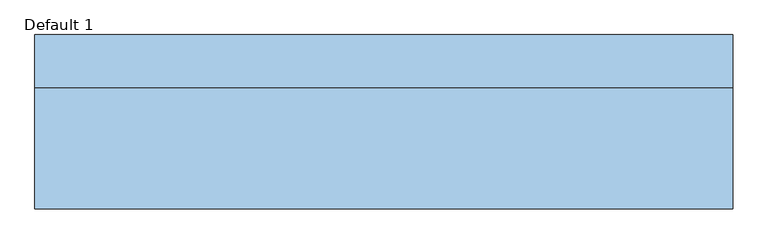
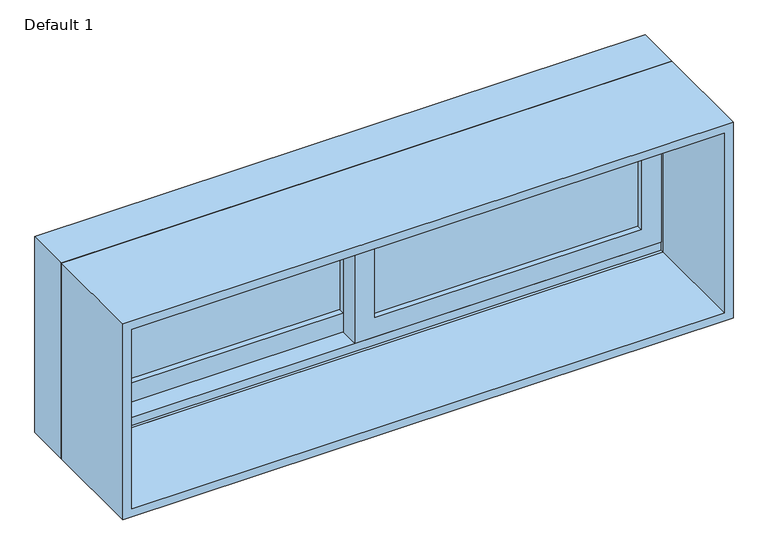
"""IFC4 building model written with IfcOpenShell, lengths in millimetres: window geometry, Planitar-Sliding-Double : Default 1."""

import ifcopenshell
import ifcopenshell.guid

model = None  # the IFC model being written
_history = None  # IfcOwnerHistory: only IFC2X3 demands one
_inside = {}  # id of a spatial element -> (the spatial element, [elements in it])
_under = {}  # id of a project, library or spatial element -> (it, [spatial elements below it])
_declared = {}  # id of a project -> (the project, [libraries it declares])
_typed = {}  # id of a type object -> (the type object, [elements of that type])
_made_of = {}  # id of a material, layer set ... -> (it, [elements and type objects made of it])


def new_model(schema):
    """Start an empty IFC model of exactly this schema.

    Asked for "IFC4X3", IfcOpenShell would pick the latest addendum, in which some entities
    have other attributes; the version numbers below select the first issue.
    IFC2X3 requires an IfcOwnerHistory on every rooted entity: one is made here for all.
    """
    global model, _history
    if schema == "IFC4X3":
        model = ifcopenshell.file(schema_version=(4, 3, 0, 0))
    else:
        model = ifcopenshell.file(schema=schema)
    _inside.clear()
    _under.clear()
    _declared.clear()
    _typed.clear()
    _made_of.clear()
    _history = None
    if model.schema == "IFC2X3":
        org = make("IfcOrganization", Name="unknown")
        user = make(
            "IfcPersonAndOrganization",
            ThePerson=make("IfcPerson", FamilyName="unknown"),
            TheOrganization=org,
        )
        app = make(
            "IfcApplication",
            ApplicationDeveloper=org,
            Version="unknown",
            ApplicationFullName="unknown",
            ApplicationIdentifier="unknown",
        )
        _history = make(
            "IfcOwnerHistory",
            OwningUser=user,
            OwningApplication=app,
            ChangeAction="ADDED",
            CreationDate=0,
        )
    return model


def make(cls, **values):
    """One entity of the class cls with the attributes given. An attribute that is None is left unset."""
    return model.create_entity(
        cls, **{name: value for name, value in values.items() if value is not None}
    )


def rooted(cls, **values):
    """An entity with a GlobalId (a new one), such as an element, a storey or a relation."""
    return make(cls, GlobalId=ifcopenshell.guid.new(), OwnerHistory=_history, **values)


def si_unit(unit_type, name, prefix=None):
    """IfcSIUnit, for example si_unit("LENGTHUNIT", "METRE", prefix="MILLI")."""
    return make("IfcSIUnit", UnitType=unit_type, Prefix=prefix, Name=name)


def assignment(units):
    """IfcUnitAssignment: the units of a project."""
    return None if units is None else make("IfcUnitAssignment", Units=units)


def point(xyz):
    """IfcCartesianPoint."""
    return None if xyz is None else make("IfcCartesianPoint", Coordinates=xyz)


def direction(xyz):
    """IfcDirection."""
    return None if xyz is None else make("IfcDirection", DirectionRatios=xyz)


def frame(location, z_axis=None, x_axis=None):
    """IfcAxis2Placement3D, a coordinate frame: its origin and axes. An axis left out is left unset."""
    return make(
        "IfcAxis2Placement3D",
        Location=point(location),
        Axis=direction(z_axis),
        RefDirection=direction(x_axis),
    )


def origin():
    """The frame at (0, 0, 0) with its axes left unset."""
    return frame((0.0, 0.0, 0.0))


def place(relative_to, where):
    """IfcLocalPlacement: puts the frame where relative to a parent placement (None: the world)."""
    return make(
        "IfcLocalPlacement", PlacementRelTo=relative_to, RelativePlacement=where
    )


def context(
    kind, dimensions, precision=None, world=None, true_north=None, identifier=None
):
    """IfcGeometricRepresentationContext, for example the 3D "Model" context."""
    return make(
        "IfcGeometricRepresentationContext",
        ContextIdentifier=identifier,
        ContextType=kind,
        CoordinateSpaceDimension=dimensions,
        Precision=precision,
        WorldCoordinateSystem=world,
        TrueNorth=true_north,
    )


def project(units=None, contexts=None):
    """IfcProject with its units and contexts."""
    return rooted(
        "IfcProject",
        Name="project",
        RepresentationContexts=contexts,
        UnitsInContext=assignment(units),
    )


def spatial(cls, under=None, at=None, **own):
    """A site, building, storey or space (cls), placed at a placement, below another one or the project."""
    s = rooted(cls, ObjectPlacement=at, **own)
    if under is not None:
        _under.setdefault(under.id(), (under, []))[1].append(s)
    return s


def polyline(points):
    """IfcPolyline through the points."""
    return make("IfcPolyline", Points=[point(p) for p in points])


def outline(outer, holes=None, kind="AREA"):
    """IfcArbitraryClosedProfileDef: a profile drawn as a closed curve; with holes, ...WithVoids."""
    if holes is None:
        return make("IfcArbitraryClosedProfileDef", ProfileType=kind, OuterCurve=outer)
    return make(
        "IfcArbitraryProfileDefWithVoids",
        ProfileType=kind,
        OuterCurve=outer,
        InnerCurves=holes,
    )


def extrude(swept, where, along, depth):
    """IfcExtrudedAreaSolid: the profile swept, set in the frame where, extruded along a direction by depth."""
    return make(
        "IfcExtrudedAreaSolid",
        SweptArea=swept,
        Position=where,
        ExtrudedDirection=direction(along),
        Depth=depth,
    )


def faces_of(points, faces, orient=None, outer=None):
    """IfcFace entities. A face is a list of loops; a loop is a list of indices into points, from 0.

    orient and outer hold one flag for each loop. By default every Orientation is true, the
    first loop of a face is its IfcFaceOuterBound and the others are IfcFaceBound.
    """
    made = []
    for i, loops in enumerate(faces):
        bounds = []
        for j, loop in enumerate(loops):
            is_outer = j == 0 if outer is None else outer[i][j]
            bounds.append(
                make(
                    "IfcFaceOuterBound" if is_outer else "IfcFaceBound",
                    Bound=make("IfcPolyLoop", Polygon=[points[k] for k in loop]),
                    Orientation=True if orient is None else orient[i][j],
                )
            )
        made.append(make("IfcFace", Bounds=bounds))
    return made


def faceted_brep(points, faces, orient=None, outer=None, voids=None):
    """IfcFacetedBrep: a solid bounded by flat faces; with voids (closed shells), ...WithVoids."""
    shared = [point(p) for p in points]
    hull = make("IfcClosedShell", CfsFaces=faces_of(shared, faces, orient, outer))
    if voids is None:
        return make("IfcFacetedBrep", Outer=hull)
    return make(
        "IfcFacetedBrepWithVoids",
        Outer=hull,
        Voids=[
            make(cls, CfsFaces=faces_of(shared, fs, o, b)) for cls, fs, o, b in voids
        ],
    )


def shape(context_of_items, identifier, shape_type, items):
    """IfcShapeRepresentation: the items that make up one representation, for example the "Body"."""
    return make(
        "IfcShapeRepresentation",
        ContextOfItems=context_of_items,
        RepresentationIdentifier=identifier,
        RepresentationType=shape_type,
        Items=items,
    )


def source(mapping_origin, context_of_items, identifier, shape_type, items):
    """IfcRepresentationMap: a shape defined once, which mapped items show again and again."""
    return make(
        "IfcRepresentationMap",
        MappingOrigin=mapping_origin,
        MappedRepresentation=shape(context_of_items, identifier, shape_type, items),
    )


def transform(
    local_origin,
    x_axis=None,
    y_axis=None,
    z_axis=None,
    scale=None,
    scale2=None,
    scale3=None,
    uniform=True,
):
    """IfcCartesianTransformationOperator3D, or its non-uniform kind. x_axis, y_axis, z_axis: its Axis1, 2, 3."""
    if uniform:
        return make(
            "IfcCartesianTransformationOperator3D",
            Axis1=direction(x_axis),
            Axis2=direction(y_axis),
            LocalOrigin=point(local_origin),
            Scale=scale,
            Axis3=direction(z_axis),
        )
    return make(
        "IfcCartesianTransformationOperator3DnonUniform",
        Axis1=direction(x_axis),
        Axis2=direction(y_axis),
        LocalOrigin=point(local_origin),
        Scale=scale,
        Axis3=direction(z_axis),
        Scale2=scale2,
        Scale3=scale3,
    )


def mapped(mapping_source, mapping_target):
    """IfcMappedItem: shows the shape of a source again, moved by a transform."""
    return make(
        "IfcMappedItem", MappingSource=mapping_source, MappingTarget=mapping_target
    )


def made_of(thing, what):
    """Note that an element or type object is made of a material, layer set ...; save() writes the relation."""
    if what is not None:
        _made_of.setdefault(what.id(), (what, []))[1].append(thing)
    return thing


def element(
    cls,
    number,
    at=None,
    inside=None,
    cuts=None,
    type_object=None,
    material=None,
    context=None,
    identifier="Body",
    shape_type=None,
    held_by="IfcProductDefinitionShape",
    body=None,
    shapes=None,
    **own,
):
    """One element of the class cls, such as IfcWall. Its Tag is "e" and its number.

    at: its placement. inside: the storey or other place that contains it. cuts: it is an
    opening in that element (IfcRelVoidsElement). A single representation is given by context,
    identifier, shape_type and body (its items); several are given by shapes. held_by: the class
    of the entity that holds the representations. save() writes the other relations.
    """
    e = rooted(cls, Tag="e%d" % number, ObjectPlacement=at, **own)
    if body is not None:
        shapes = [shape(context, identifier, shape_type, body)]
    if shapes is not None:
        e.Representation = make(held_by, Representations=shapes)
    if inside is not None:
        _inside.setdefault(inside.id(), (inside, []))[1].append(e)
    if cuts is not None:
        rooted(
            "IfcRelVoidsElement", RelatingBuildingElement=cuts, RelatedOpeningElement=e
        )
    if type_object is not None:
        _typed.setdefault(type_object.id(), (type_object, []))[1].append(e)
    return made_of(e, material)


def aggregate(whole, parts):
    """IfcRelAggregates: a whole, such as a stair, and the parts it consists of."""
    return rooted("IfcRelAggregates", RelatingObject=whole, RelatedObjects=parts)


def save(model, path):
    """Write the relations noted so far, then the file.

    IfcRelAggregates (storeys below a building ...), IfcRelContainedInSpatialStructure (elements
    in a storey), IfcRelDefinesByType, IfcRelAssociatesMaterial and IfcRelDeclares: one each for
    every whole, place, type object, material and project.
    """
    for whole, parts in _under.values():
        aggregate(whole, parts)
    for where, things in _inside.values():
        rooted(
            "IfcRelContainedInSpatialStructure",
            RelatedElements=things,
            RelatingStructure=where,
        )
    for kind, things in _typed.values():
        rooted("IfcRelDefinesByType", RelatedObjects=things, RelatingType=kind)
    for what, things in _made_of.values():
        rooted("IfcRelAssociatesMaterial", RelatedObjects=things, RelatingMaterial=what)
    for by, libraries in _declared.values():
        rooted("IfcRelDeclares", RelatingContext=by, RelatedDefinitions=libraries)
    model.write(path)


def default_1_0dcfb3a5(model_context):
    return source(origin(), model_context, "Body", "SolidModel", [
        extrude(outline(polyline([(933.45, -654.05), (933.45, 22.225), (1352.55, 22.225), (1352.55, -654.05), (933.45, -654.05)]), holes=[polyline([(1308.1, -22.225), (996.95, -22.225), (996.95, -609.6), (1308.1, -609.6), (1308.1, -22.225)])]), frame((0.0, 123.19, 0.0), z_axis=(0.0, 1.0, 0.0), x_axis=(0.0, 0.0, 1.0)), (0.0, 0.0, 1.0), 44.45),
        extrude(outline(polyline([(952.5, 654.05), (1352.55, 654.05), (1352.55, -22.225), (952.5, -22.225), (952.5, 654.05)]), holes=[polyline([(996.95, 22.225), (1308.1, 22.225), (1308.1, 609.6), (996.95, 609.6), (996.95, 22.225)])]), frame((0.0, 78.74, 0.0), z_axis=(0.0, 1.0, 0.0), x_axis=(0.0, 0.0, 1.0)), (0.0, 0.0, 1.0), 44.45),
        faceted_brep([(-673.1, 72.39, 914.4), (-673.1, 173.99, 914.4), (673.1, 173.99, 914.4), (673.1, 72.39, 914.4), (-632.1778905, 173.99, 1330.6778905), (-632.1778905, 167.64, 1330.6778905), (-632.1778905, 167.64, 933.45), (-632.1778905, 173.99, 933.45), (632.1778905, 167.64, 1330.6778905), (632.1778905, 167.64, 933.45), (654.05, 167.64, 933.45), (654.05, 167.64, 1352.55), (-654.05, 167.64, 1352.55), (-654.05, 167.64, 933.45), (-654.05, 72.39, 1352.55), (-654.05, 72.39, 933.45), (-654.05, 78.74, 933.45), (-654.05, 78.74, 952.5), (-654.05, 123.19, 952.5), (-654.05, 123.19, 933.45), (673.1, 72.39, 1371.6), (-673.1, 72.39, 1371.6), (654.05, 72.39, 1352.55), (654.05, 72.39, 933.45), (-673.1, 173.99, 1371.6), (673.1, 173.99, 1371.6), (632.1778905, 173.99, 933.45), (632.1778905, 173.99, 1330.6778905), (654.05, 123.19, 933.45), (654.05, 123.19, 952.5), (654.05, 78.74, 952.5), (654.05, 78.74, 933.45)], [[[0, 1, 2, 3]], [[4, 5, 6, 7]], [[5, 8, 9, 10, 11, 12, 13, 6]], [[12, 14, 15, 16, 17, 18, 19, 13]], [[0, 3, 20, 21], [22, 23, 15, 14]], [[24, 1, 0, 21]], [[2, 1, 24, 25], [4, 7, 26, 27]], [[5, 4, 27, 8]], [[12, 11, 22, 14]], [[21, 20, 25, 24]], [[8, 27, 26, 9]], [[22, 11, 10, 28, 29, 30, 31, 23]], [[20, 3, 2, 25]], [[26, 7, 6, 13, 19, 28, 10, 9]], [[28, 19, 18, 29]], [[29, 18, 17, 30]], [[30, 17, 16, 31]], [[15, 23, 31, 16]]]),
        extrude(outline(polyline([(1371.6, -673.1), (914.4, -673.1), (914.4, 673.1), (1371.6, 673.1), (1371.6, -673.1)]), holes=[polyline([(1352.55, 654.05), (933.45, 654.05), (933.45, -654.05), (1352.55, -654.05), (1352.55, 654.05)])]), frame((0.0, -162.56, 0.0), z_axis=(0.0, 1.0, 0.0), x_axis=(0.0, 0.0, 1.0)), (0.0, 0.0, 1.0), 234.95),
        extrude(outline(polyline([(609.6, 110.49), (609.6, 104.14), (22.225, 104.14), (22.225, 110.49), (609.6, 110.49)])), frame((0.0, 0.0, 996.95), z_axis=(0.0, 0.0, 1.0), x_axis=(1.0, 0.0, 0.0)), (0.0, 0.0, 1.0), 311.15),
        extrude(outline(polyline([(609.6, 97.79), (609.6, 91.44), (22.225, 91.44), (22.225, 97.79), (609.6, 97.79)])), frame((0.0, 0.0, 996.95), z_axis=(0.0, 0.0, 1.0), x_axis=(1.0, 0.0, 0.0)), (0.0, 0.0, 1.0), 311.15),
        extrude(outline(polyline([(-22.225, 154.94), (-22.225, 148.59), (-609.6, 148.59), (-609.6, 154.94), (-22.225, 154.94)])), frame((0.0, 0.0, 996.95), z_axis=(0.0, 0.0, 1.0), x_axis=(1.0, 0.0, 0.0)), (0.0, 0.0, 1.0), 311.15),
        extrude(outline(polyline([(-22.225, 142.24), (-22.225, 135.89), (-609.6, 135.89), (-609.6, 142.24), (-22.225, 142.24)])), frame((0.0, 0.0, 996.95), z_axis=(0.0, 0.0, 1.0), x_axis=(1.0, 0.0, 0.0)), (0.0, 0.0, 1.0), 311.15),
    ])


if __name__ == "__main__":
    model = new_model("IFC4")
    model_context = context("Model", 3, world=origin())
    ifc_project = project(units=[si_unit("LENGTHUNIT", "METRE", prefix="MILLI")], contexts=[model_context])
    site = spatial("IfcSite", under=ifc_project)
    building = spatial("IfcBuilding", under=site)
    placement = place(None, origin())
    default_1_shape = default_1_0dcfb3a5(model_context)
    element("IfcWindow", 1, ObjectType="Planitar-Sliding-Double : Default 1", at=placement, inside=building, context=model_context, shape_type="MappedRepresentation", body=[
        mapped(default_1_shape, transform((0.0, 0.0, 0.0), x_axis=(1.0, 0.0, 0.0), y_axis=(0.0, 1.0, 0.0), z_axis=(0.0, 0.0, 1.0))),
    ])
    save(model, "model.ifc")
